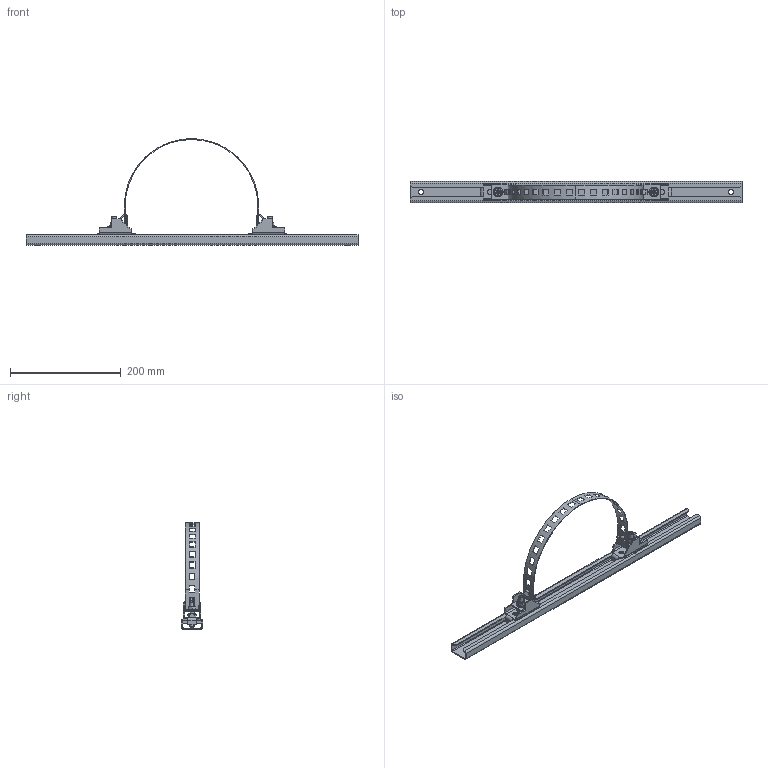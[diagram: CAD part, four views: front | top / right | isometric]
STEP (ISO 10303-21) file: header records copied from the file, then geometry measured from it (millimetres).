
FILE_DESCRIPTION (( 'STEP AP203' ), '1' );
FILE_NAME ('OK 60 EP .STEP', '2021-03-09T14:44:45', ( '' ), ( '' ), 'SwSTEP 2.0', 'SolidWorks 2018', '' );
FILE_SCHEMA (( 'CONFIG_CONTROL_DESIGN' ));
Length unit declared in the file: millimetre
Products named in the file (9): Ãàéêà õîäîâàÿ Ì8; 襄痿铍屙蜞 450祆_懏－汊狅-1; Ãàéêà îö. Ì8 DIN 934; Òðàâåðñà (ñ èñïîëíåíèÿìè 200-1200)_’à ¢¥àá  600; Êðîíøòåéí äëÿ êðåïëåíèÿ ê ñòîëáó; Ãàéêà îö. ñ ôëàíöåì, ðèôëåíàÿ Ì8 DIN 6923_Hexagon Flange Nut DIN 6923 - M8 - C; OK 60 EP ; Âèíò Ì8õ50 ÃÎÑÒ 8878-93_Œ8å50; Óãîëîê âàð. 2
Assembly tree (14 placements, depth 2):
  OK 60 EP 
    Òðàâåðñà (ñ èñïîëíåíèÿìè 200-1200)_’à ¢¥àá  600
    Ãàéêà õîäîâàÿ Ì8  x2
    Âèíò Ì8õ50 ÃÎÑÒ 8878-93_Œ8å50  x2
    Êðîíøòåéí äëÿ êðåïëåíèÿ ê ñòîëáó  x2
    Ãàéêà îö. ñ ôëàíöåì, ðèôëåíàÿ Ì8 DIN 6923_Hexagon Flange Nut DIN 6923 - M8 - C  x2
    Óãîëîê âàð. 2  x2
    Ãàéêà îö. Ì8 DIN 934  x2
    襄痿铍屙蜞 450祆_懏－汊狅-1
Bounding box: 600 x 38.05 x 192.31 mm (x, y, z)
Volume: 154803.7 mm3; surface area: 158044.7 mm2
Topology: 14 solids, 14 shells, 574 faces, 1398 edges, 846 vertices
Faces by surface type: plane 386, cylinder 96, cone 76, bspline 12, torus 4
Entity records: 12101 total; most frequent: CARTESIAN_POINT 2256, DIRECTION 1818, ORIENTED_EDGE 1796, EDGE_CURVE 898, LINE 612, VECTOR 612, AXIS2_PLACEMENT_3D 603, VERTEX_POINT 549
